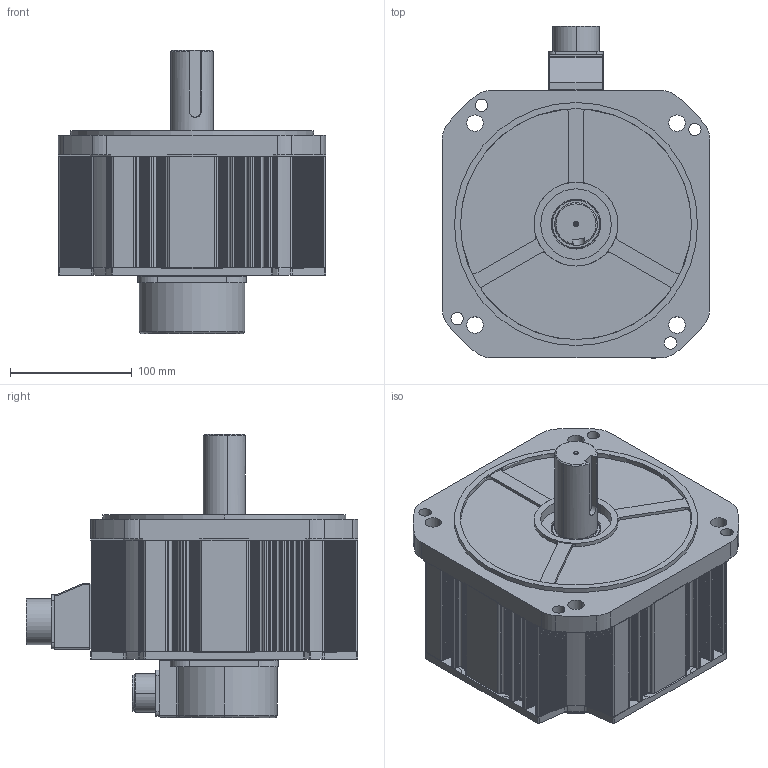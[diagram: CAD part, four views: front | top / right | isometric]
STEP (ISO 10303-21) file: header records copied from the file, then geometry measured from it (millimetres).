
FILE_DESCRIPTION (( 'STEP AP203' ), '1' );
FILE_NAME ('KANF-45G¡à9N2.STEP', '2026-09-12T00:53:37', ( '' ), ( '' ), 'SwSTEP 2.0', 'SolidWorks 2023', '' );
FILE_SCHEMA (( 'CONFIG_CONTROL_DESIGN' ));
Length unit declared in the file: millimetre
Products named in the file (11): □220-94.5mm(4.5kW,NB); MS3102A 20-29P; □220 FLANGE; KANF-45G□9N2; 10050908 CONNECTOR BOX_MS22 or MS24; Ø35-KEY10X50; MS3102A 24-11P_표준; 10050907 RUBBER SEAL_MS22 or MS24; 10050532 GASKET_미돌출형; □220 BRACKET_BR; 1005053102 ENCODER COVER
Assembly tree (10 placements, depth 2):
  KANF-45G□9N2
    □220 FLANGE
    □220 BRACKET_BR
    10050532 GASKET_미돌출형
    1005053102 ENCODER COVER
    MS3102A 20-29P
    10050907 RUBBER SEAL_MS22 or MS24
    10050908 CONNECTOR BOX_MS22 or MS24
    MS3102A 24-11P_표준
    Ø35-KEY10X50
    □220-94.5mm(4.5kW,NB)
Bounding box: 220 x 273.12 x 233 mm (x, y, z)
Volume: 1590086.3 mm3; surface area: 538202.2 mm2
Topology: 10 solids, 10 shells, 2020 faces, 5772 edges, 3812 vertices
Faces by surface type: plane 1184, cylinder 732, cone 54, bspline 35, torus 13, sphere 2
Entity records: 68895 total; most frequent: CARTESIAN_POINT 13760, ORIENTED_EDGE 11492, DIRECTION 11204, EDGE_CURVE 5746, LINE 3982, VECTOR 3982, VERTEX_POINT 3812, AXIS2_PLACEMENT_3D 3611
